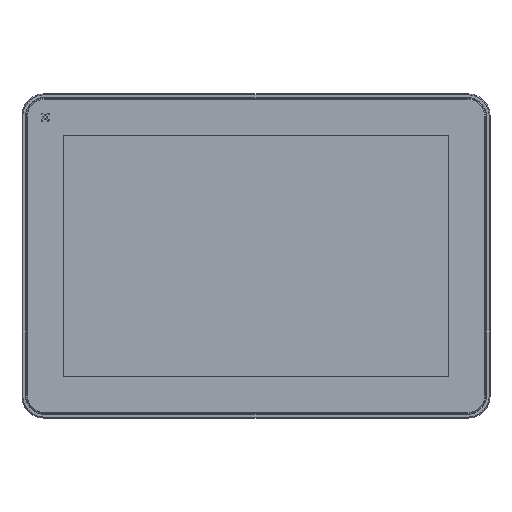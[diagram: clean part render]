
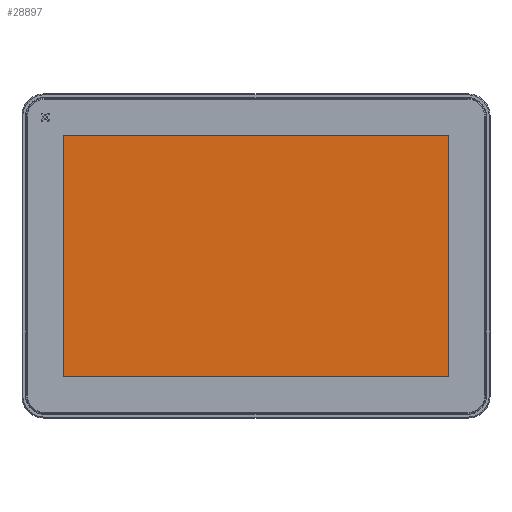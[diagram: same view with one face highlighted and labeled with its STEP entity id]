
A CAD part, top view. The second image highlights one B-rep face of the part: STEP entity #28897.
In plain terms, the highlighted planar face has unit normal (0, 0, 1).
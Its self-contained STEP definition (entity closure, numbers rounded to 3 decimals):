
#294 = ORIENTED_EDGE ( 'NONE', *, *, #4764, .T. ) ;
#981 = LINE ( 'NONE', #1457, #2259 ) ;
#1083 = FACE_OUTER_BOUND ( 'NONE', #28517, .T. ) ;
#1457 = CARTESIAN_POINT ( 'NONE',  ( 108.99, 68.3, 46.224 ) ) ;
#2259 = VECTOR ( 'NONE', #18263, 1000. ) ;
#3338 = PLANE ( 'NONE',  #12875 ) ;
#4764 = EDGE_CURVE ( 'NONE', #24756, #18278, #12941, .T. ) ;
#7211 = LINE ( 'NONE', #22396, #30201 ) ;
#7605 = ORIENTED_EDGE ( 'NONE', *, *, #14703, .T. ) ;
#7836 = EDGE_CURVE ( 'NONE', #18278, #16759, #31472, .T. ) ;
#7971 = EDGE_CURVE ( 'NONE', #14181, #24756, #7211, .T. ) ;
#11855 = CARTESIAN_POINT ( 'NONE',  ( 108.99, 68.3, 46.224 ) ) ;
#12875 = AXIS2_PLACEMENT_3D ( 'NONE', #30176, #27895, #22892 ) ;
#12941 = LINE ( 'NONE', #15370, #30836 ) ;
#14181 = VERTEX_POINT ( 'NONE', #24715 ) ;
#14226 = ORIENTED_EDGE ( 'NONE', *, *, #7971, .T. ) ;
#14703 = EDGE_CURVE ( 'NONE', #16759, #14181, #981, .T. ) ;
#15370 = CARTESIAN_POINT ( 'NONE',  ( 108.99, -68.3, 46.224 ) ) ;
#16449 = DIRECTION ( 'NONE',  ( 0., 1., 0. ) ) ;
#16759 = VERTEX_POINT ( 'NONE', #11855 ) ;
#18263 = DIRECTION ( 'NONE',  ( -1., 0., 0. ) ) ;
#18278 = VERTEX_POINT ( 'NONE', #28719 ) ;
#18543 = CARTESIAN_POINT ( 'NONE',  ( 108.99, -68.3, 46.224 ) ) ;
#20210 = DIRECTION ( 'NONE',  ( 1., 0., 0. ) ) ;
#21919 = DIRECTION ( 'NONE',  ( 0., -1., 0. ) ) ;
#22396 = CARTESIAN_POINT ( 'NONE',  ( -108.99, -68.3, 46.224 ) ) ;
#22892 = DIRECTION ( 'NONE',  ( 1., 0., 0. ) ) ;
#23356 = CARTESIAN_POINT ( 'NONE',  ( -108.99, -68.3, 46.224 ) ) ;
#24521 = ORIENTED_EDGE ( 'NONE', *, *, #7836, .T. ) ;
#24715 = CARTESIAN_POINT ( 'NONE',  ( -108.99, 68.3, 46.224 ) ) ;
#24756 = VERTEX_POINT ( 'NONE', #23356 ) ;
#27895 = DIRECTION ( 'NONE',  ( 0., 0., 1. ) ) ;
#28517 = EDGE_LOOP ( 'NONE', ( #14226, #294, #24521, #7605 ) ) ;
#28719 = CARTESIAN_POINT ( 'NONE',  ( 108.99, -68.3, 46.224 ) ) ;
#28897 = ADVANCED_FACE ( 'NONE', ( #1083 ), #3338, .T. ) ;
#30176 = CARTESIAN_POINT ( 'NONE',  ( 0., 0., 46.224 ) ) ;
#30201 = VECTOR ( 'NONE', #21919, 1000. ) ;
#30836 = VECTOR ( 'NONE', #20210, 1000. ) ;
#31472 = LINE ( 'NONE', #18543, #31734 ) ;
#31734 = VECTOR ( 'NONE', #16449, 1000. ) ;
